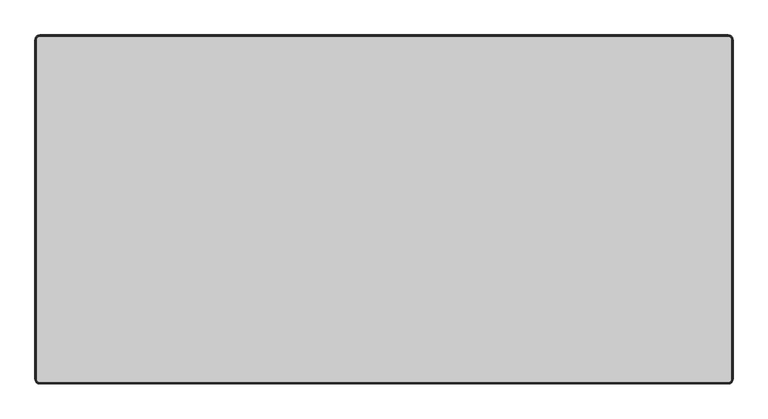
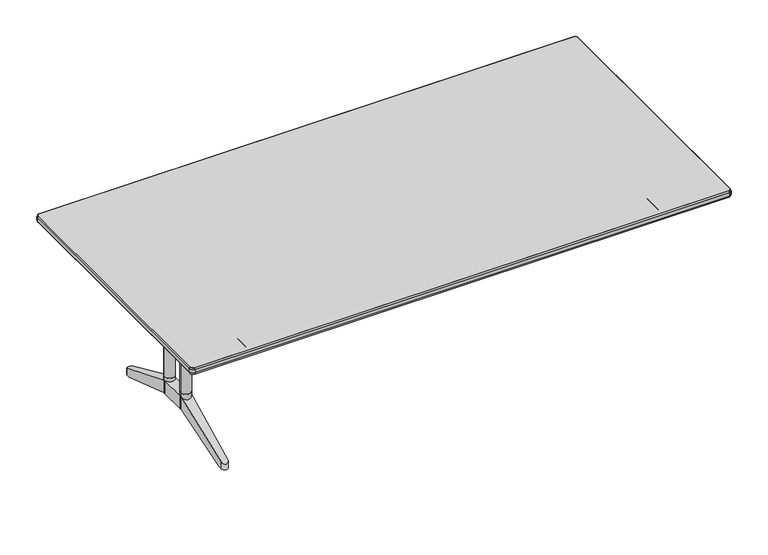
"""IFC4 building model written with IfcOpenShell, lengths in millimetres: furniture geometry."""

from ifc_helpers import new_model, si_unit, point, frame, frame_2d, origin, place, context, project, spatial, polyline, circle_curve, ellipse_curve, trimmed, segment, composite_curve, outline, extrude, source, transform, mapped, element, save
from ifc_brep_helpers import plane_surface, cylinder_surface, revolved_surface, advanced_brep


def furniture_7bb8779a(model_context):
    return source(origin(), model_context, "Body", "SolidModel", [
        extrude(outline(composite_curve([segment(trimmed(circle_curve(frame_2d((-812.8, -154.0488451)), 20.0), [point((-832.8, -154.0488451))], [point((-792.8, -154.0488451))], False, "CARTESIAN"), True, "CONTINUOUS"), segment(trimmed(circle_curve(frame_2d((-812.8, -154.0488451)), 20.0), [point((-792.8, -154.0488451))], [point((-832.8, -154.0488451))], False, "CARTESIAN"), True, "CONTINUOUS")], self_intersect=False)), frame((0.0, 0.0, 193.3080085), z_axis=(0.0, 0.0, 1.0), x_axis=(1.0, 0.0, 0.0)), (0.0, 0.0, 1.0), 68.8536941),
        extrude(outline(composite_curve([segment(trimmed(circle_curve(frame_2d((-812.8, -44.0488461)), 20.0), [point((-832.8, -44.0488461))], [point((-792.8, -44.0488461))], False, "CARTESIAN"), True, "CONTINUOUS"), segment(trimmed(circle_curve(frame_2d((-812.8, -44.0488461)), 20.0), [point((-792.8, -44.0488461))], [point((-832.8, -44.0488461))], False, "CARTESIAN"), True, "CONTINUOUS")], self_intersect=False)), frame((0.0, 0.0, 193.3080085), z_axis=(0.0, 0.0, 1.0), x_axis=(1.0, 0.0, 0.0)), (0.0, 0.0, 1.0), 68.8536941),
        extrude(outline(composite_curve([segment(trimmed(circle_curve(frame_2d((-812.8, -154.0488451)), 20.0), [point((-832.8, -154.0488451))], [point((-792.8, -154.0488451))], False, "CARTESIAN"), True, "CONTINUOUS"), segment(trimmed(circle_curve(frame_2d((-812.8, -154.0488451)), 20.0), [point((-792.8, -154.0488451))], [point((-832.8, -154.0488451))], False, "CARTESIAN"), True, "CONTINUOUS")], self_intersect=False)), frame((0.0, 0.0, 262.1617027), z_axis=(0.0, 0.0, 1.0), x_axis=(1.0, 0.0, 0.0)), (0.0, 0.0, 1.0), 318.0882973),
        extrude(outline(composite_curve([segment(trimmed(circle_curve(frame_2d((-812.8, -44.0488461)), 20.0), [point((-832.8, -44.0488461))], [point((-792.8, -44.0488461))], False, "CARTESIAN"), True, "CONTINUOUS"), segment(trimmed(circle_curve(frame_2d((-812.8, -44.0488461)), 20.0), [point((-792.8, -44.0488461))], [point((-832.8, -44.0488461))], False, "CARTESIAN"), True, "CONTINUOUS")], self_intersect=False)), frame((0.0, 0.0, 262.1617027), z_axis=(0.0, 0.0, 1.0), x_axis=(1.0, 0.0, 0.0)), (0.0, 0.0, 1.0), 318.0882973),
        extrude(outline(polyline([(-786.7999882, 147.9511612), (-786.7999882, -352.0488426), (-838.8000118, -352.0488426), (-838.8000118, 147.9511612), (-786.7999882, 147.9511612)])), frame((0.0, 0.0, 676.2500168), z_axis=(0.0, 0.0, 1.0), x_axis=(1.0, 0.0, 0.0)), (0.0, 0.0, 1.0), 27.9999624),
        advanced_brep(
        [(-827.7998762, -140.8200278, 676.2500168), (-797.7998905, -140.8201331, 676.2500168), (-797.7998905, -134.0488456, 676.2500168), (-827.7998762, -134.0488456, 676.2500168), (-797.7998905, -57.2775581, 676.2500168), (-827.7998762, -57.2776634, 676.2500168), (-827.7998762, -64.0488456, 676.2500168), (-797.7998905, -64.0488456, 676.2500168), (-827.7998762, -57.2776634, 580.25), (-797.7998905, -57.2775581, 580.25), (-797.7998905, -140.8201331, 580.25), (-827.7998762, -140.8200278, 580.25), (-827.7998762, -134.0488456, 598.2500176), (-827.7998762, -64.0488456, 598.2500176), (-797.7998905, -64.0488456, 598.2500176), (-797.7998905, -134.0488456, 598.2500176)],
        [
            (0, 1, circle_curve(frame((-812.7999298, -154.0488451, 676.2500168), z_axis=(0.0, 0.0, 1.0), x_axis=(1.0, 0.0, 0.0)), 20.0)),
            (1, 2),
            (2, 3),
            (3, 0),
            (4, 5, circle_curve(frame((-812.7999298, -44.0488461, 676.2500168), z_axis=(0.0, 0.0, 1.0), x_axis=(1.0, 0.0, 0.0)), 20.0)),
            (5, 6),
            (6, 7),
            (7, 4),
            (8, 9, circle_curve(frame((-812.7999298, -44.0488461, 580.25), z_axis=(0.0, 0.0, -1.0), x_axis=(1.0, 0.0, 0.0)), 20.0)),
            (9, 10),
            (10, 11, circle_curve(frame((-812.7999298, -154.0488451, 580.25), z_axis=(0.0, 0.0, -1.0), x_axis=(1.0, 0.0, 0.0)), 20.0)),
            (11, 8),
            (11, 0),
            (3, 12),
            (12, 13),
            (13, 6),
            (5, 8),
            (10, 1),
            (9, 4),
            (7, 14),
            (14, 15),
            (15, 2),
            (15, 12),
            (14, 13),
        ],
        [
            plane_surface(frame((-827.7998762, -140.8200278, 676.2500168), z_axis=(0.0, 0.0, 1.0), x_axis=(0.0, -1.0, 0.0))),
            plane_surface(frame((-827.7998762, -140.8200278, 580.25), z_axis=(0.0, 0.0, -1.0), x_axis=(0.0, 1.0, 0.0))),
            plane_surface(frame((-827.7998762, -57.2776634, 676.2500168), z_axis=(-1.0, 0.0, 0.0), x_axis=(0.0, 0.0, -1.0))),
            cylinder_surface(frame((-812.7999298, -154.0488451, 580.25), z_axis=(0.0, 0.0, 1.0), x_axis=(1.0, 0.0, 0.0)), 20.0),
            plane_surface(frame((-797.7998905, -140.8201331, 676.2500168), z_axis=(1.0, 0.0, 0.0), x_axis=(0.0, 0.0, -1.0))),
            cylinder_surface(frame((-812.7999298, -44.0488461, 580.25), z_axis=(0.0, 0.0, 1.0), x_axis=(1.0, 0.0, 0.0)), 20.0),
            plane_surface(frame((-797.7998905, -134.0488456, 676.2500168), z_axis=(0.0, 1.0, 0.0), x_axis=(-1.0, 0.0, 0.0))),
            plane_surface(frame((-797.7998905, -134.0488456, 598.2500176), z_axis=(0.0, 0.0, 1.0), x_axis=(-1.0, 0.0, 0.0))),
            plane_surface(frame((-797.7998905, -64.0488456, 598.2500176), z_axis=(0.0, -1.0, 0.0), x_axis=(-1.0, 0.0, 0.0))),
        ],
        [
            (0, [[1, 2, 3, 4]]),
            (0, [[5, 6, 7, 8]]),
            (1, [[9, 10, 11, 12]]),
            (2, [[-12, 13, -4, 14, 15, 16, -6, 17]]),
            (3, [[-1, -13, -11, 18]]),
            (4, [[-10, 19, -8, 20, 21, 22, -2, -18]]),
            (5, [[-5, -19, -9, -17]]),
            (6, [[23, -14, -3, -22]]),
            (7, [[-23, -21, 24, -15]]),
            (8, [[-24, -20, -7, -16]]),
        ],
    ),
        advanced_brep(
        [(-792.8000182, -154.0488451, 248.3080085), (-792.8000182, -44.0488461, 248.3080085), (-832.8000182, -44.0488461, 248.3080085), (-832.8000182, -154.0488451, 248.3080085), (-832.8000182, -44.0488461, 193.3080085), (-832.8000182, -154.0488451, 193.3080085), (-792.8000182, -154.0488451, 193.3080085), (-792.8000182, -44.0488461, 193.3080085), (-799.3271049, 208.4135103, 105.0), (-826.272897, 208.4135103, 105.0), (-825.9262294, 221.8222582, 105.0), (-799.6737706, 221.8222564, 105.0), (-825.9262294, 221.8222582, 133.4205559), (-799.6737706, 221.8222564, 133.4205567), (-793.0000412, -36.3121196, 193.3080085), (-832.5999941, -36.3121196, 193.3080085), (-799.6737706, -419.9199475, 133.4205567), (-825.9262294, -419.9199493, 133.4205559), (-799.6737706, -419.9199475, 105.0), (-799.3271049, -406.5112014, 105.0), (-793.0000412, -161.7855715, 193.3080085), (-825.9262294, -419.9199493, 105.0), (-832.5999941, -161.7855715, 193.3080085), (-826.272897, -406.5112014, 105.0)],
        [
            (0, 1),
            (1, 2),
            (2, 3),
            (3, 0),
            (2, 4),
            (4, 5),
            (5, 3),
            (0, 6),
            (6, 7),
            (7, 1),
            (8, 9),
            (9, 10),
            (10, 11, circle_curve(frame((-812.8, 221.4828948, 105.0), z_axis=(0.0, 0.0, -1.0), x_axis=(1.0, 0.0, 0.0)), 13.1306156)),
            (11, 8),
            (12, 2),
            (1, 13),
            (13, 12, ellipse_curve(frame((-812.8, 221.4828948, 133.5672007), z_axis=(0.0, 0.3966672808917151, 0.9179624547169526), x_axis=(0.0, 0.9179624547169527, -0.39666728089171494)), 14.3040878, 13.1306156)),
            (8, 14),
            (14, 15),
            (15, 9),
            (16, 0),
            (3, 17),
            (17, 16, ellipse_curve(frame((-812.8, -419.5805859, 133.5672007), z_axis=(0.0, -0.3966672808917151, 0.9179624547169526), x_axis=(0.0, -0.9179624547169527, -0.39666728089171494)), 14.3040878, 13.1306156)),
            (16, 18),
            (18, 19),
            (19, 20),
            (20, 6),
            (17, 21),
            (21, 18, circle_curve(frame((-812.8, -419.5805859, 105.0), z_axis=(0.0, 0.0, 1.0), x_axis=(1.0, 0.0, 0.0)), 13.1306156)),
            (5, 22),
            (22, 23),
            (23, 21),
            (12, 10),
            (15, 4),
            (13, 11),
            (7, 14),
            (23, 19),
            (22, 20),
        ],
        [
            plane_surface(frame((-792.8000182, -44.0488461, 248.3080085), z_axis=(0.0, 0.0, 1.0), x_axis=(0.0, 1.0, 0.0))),
            plane_surface(frame((-832.8000182, -44.0488461, 248.3080085), z_axis=(-1.0, 0.0, 0.0), x_axis=(0.0, 0.0, -1.0))),
            plane_surface(frame((-792.8000182, -154.0488451, 248.3080085), z_axis=(1.0, 0.0, 0.0), x_axis=(0.0, 0.0, -1.0))),
            plane_surface(frame((-791.4205415, 208.4135103, 105.0), z_axis=(0.0, 0.0, -1.0), x_axis=(-1.0, 0.0, 0.0))),
            plane_surface(frame((-791.4205415, 235.9511544, 127.3152182), z_axis=(0.0, 0.3966672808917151, 0.9179624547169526), x_axis=(-1.0, 0.0, 0.0))),
            plane_surface(frame((-791.4205415, -36.3121196, 193.3080085), z_axis=(0.0, -0.3394229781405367, -0.9406338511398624), x_axis=(-1.0, 0.0, 0.0))),
            plane_surface(frame((-791.4205415, -154.0488451, 248.3080085), z_axis=(0.0, -0.3966672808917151, 0.9179624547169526), x_axis=(-1.0, 0.0, 0.0))),
            plane_surface(frame((-792.8000182, -154.0488451, 249.0000084), z_axis=(0.9996659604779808, -0.025845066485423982, 0.0), x_axis=(0.0, 0.0, -1.0))),
            cylinder_surface(frame((-812.8, -419.5805859, 90.0000025), z_axis=(0.0, 0.0, -1.0), x_axis=(1.0, 0.0, 0.0)), 13.1306156),
            plane_surface(frame((-825.9262294, -419.9199493, 249.0000084), z_axis=(-0.9996659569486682, -0.025845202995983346, 0.0), x_axis=(0.0, 0.0, -1.0))),
            plane_surface(frame((-832.8000182, -44.0488461, 249.0000084), z_axis=(-0.9996659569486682, 0.025845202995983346, 0.0), x_axis=(0.0, 0.0, -1.0))),
            cylinder_surface(frame((-812.8, 221.4828948, 0.0), z_axis=(0.0, 0.0, -1.0), x_axis=(1.0, 0.0, 0.0)), 13.1306156),
            plane_surface(frame((-799.6737706, 221.8222564, 249.0000084), z_axis=(0.9996659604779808, 0.025845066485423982, 0.0), x_axis=(0.0, 0.0, -1.0))),
            plane_surface(frame((-791.4205415, -434.0488456, 105.0), z_axis=(0.0, 0.0, -1.0), x_axis=(-1.0, 0.0, 0.0))),
            plane_surface(frame((-791.4205415, -406.5112014, 105.0), z_axis=(0.0, 0.3394229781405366, -0.9406338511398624), x_axis=(-1.0, 0.0, 0.0))),
            plane_surface(frame((-791.4205415, -44.0488461, 193.3080085), z_axis=(0.0, 0.0, -1.0), x_axis=(-1.0, 0.0, 0.0))),
        ],
        [
            (0, [[1, 2, 3, 4]]),
            (1, [[-3, 5, 6, 7]]),
            (2, [[-1, 8, 9, 10]]),
            (3, [[11, 12, 13, 14]]),
            (4, [[15, -2, 16, 17]]),
            (5, [[-11, 18, 19, 20]]),
            (6, [[21, -4, 22, 23]]),
            (7, [[24, 25, 26, 27, -8, -21]]),
            (8, [[-24, -23, 28, 29]]),
            (9, [[-28, -22, -7, 30, 31, 32]]),
            (10, [[33, -12, -20, 34, -5, -15]]),
            (11, [[-33, -17, 35, -13]]),
            (12, [[-35, -16, -10, 36, -18, -14]]),
            (13, [[37, -25, -29, -32]]),
            (14, [[-37, -31, 38, -26]]),
            (15, [[-19, -36, -9, -27, -38, -30, -6, -34]]),
        ],
    ),
        extrude(outline(composite_curve([segment(trimmed(circle_curve(frame_2d((-1051.8, 419.3511544)), 10.0), [point((-1061.8, 419.3511544))], [point((-1051.8, 429.3511544))], False, "CARTESIAN"), True, "CONTINUOUS"), segment(polyline([(-1051.8, 429.3511544), (1051.8, 429.3511544)]), True, "CONTINUOUS"), segment(trimmed(circle_curve(frame_2d((1051.8, 419.3511544)), 10.0), [point((1051.8, 429.3511544))], [point((1061.8, 419.3511544))], False, "CARTESIAN"), True, "CONTINUOUS"), segment(polyline([(1061.8, 419.3511544), (1061.8, -617.4488456)]), True, "CONTINUOUS"), segment(trimmed(circle_curve(frame_2d((1051.8, -617.4488456)), 10.0), [point((1061.8, -617.4488456))], [point((1051.8, -627.4488456))], False, "CARTESIAN"), True, "CONTINUOUS"), segment(polyline([(1051.8, -627.4488456), (-1051.8, -627.4488456)]), True, "CONTINUOUS"), segment(trimmed(circle_curve(frame_2d((-1051.8, -617.4488456)), 10.0), [point((-1051.8, -627.4488456))], [point((-1061.8, -617.4488456))], False, "CARTESIAN"), True, "CONTINUOUS"), segment(polyline([(-1061.8, -617.4488456), (-1061.8, 419.3511544)]), True, "CONTINUOUS")], self_intersect=False)), frame((0.0, 0.0, 704.2499792), z_axis=(0.0, 0.0, 1.0), x_axis=(1.0, 0.0, 0.0)), (0.0, 0.0, 1.0), 26.0000208),
        extrude(outline(composite_curve([segment(trimmed(circle_curve(frame_2d((690.249998, -812.8)), 3.5), [point((686.749998, -812.8))], [point((693.749998, -812.8))], False, "CARTESIAN"), True, "CONTINUOUS"), segment(trimmed(circle_curve(frame_2d((690.249998, -812.8)), 3.5), [point((693.749998, -812.8))], [point((686.749998, -812.8))], False, "CARTESIAN"), True, "CONTINUOUS")], self_intersect=False)), frame((0.0, -558.8394749, 0.0), z_axis=(0.0, 1.0, 0.0), x_axis=(0.0, 0.0, 1.0)), (0.0, 0.0, 1.0), 206.7906323),
        extrude(outline(composite_curve([segment(trimmed(circle_curve(frame_2d((690.249998, 812.8)), 3.5), [point((686.749998, 812.8))], [point((693.749998, 812.8))], False, "CARTESIAN"), True, "CONTINUOUS"), segment(trimmed(circle_curve(frame_2d((690.249998, 812.8)), 3.5), [point((693.749998, 812.8))], [point((686.749998, 812.8))], False, "CARTESIAN"), True, "CONTINUOUS")], self_intersect=False)), frame((0.0, -558.8394749, 0.0), z_axis=(0.0, 1.0, 0.0), x_axis=(0.0, 0.0, 1.0)), (0.0, 0.0, 1.0), 206.7906323),
        advanced_brep(
        [(-1051.8, -627.4488456, 704.2499792), (-1061.8, -617.4488456, 704.2499792), (-1061.8, -617.4488456, 730.25), (-1051.8, -627.4488456, 730.25), (-1051.8, -630.8983863, 710.6562743), (-1065.2495407, -617.4488456, 710.6562743), (-1063.0436764, -617.4488456, 704.2499792), (-1051.8, -628.692522, 704.2499792), (-1051.8, -630.8983863, 723.843705), (-1065.2495407, -617.4488456, 723.843705), (-1051.8, -628.692522, 730.25), (-1063.0436764, -617.4488456, 730.25), (1051.8, -627.4488456, 730.25), (1051.8, -627.4488456, 704.2499792), (1051.8, -628.692522, 704.2499792), (1051.8, -630.8983863, 710.6562743), (1051.8, -630.8983863, 723.843705), (1051.8, -628.692522, 730.25), (1061.8, -617.4488456, 704.2499792), (1061.8, -617.4488456, 730.25), (1065.2495407, -617.4488456, 710.6562743), (1063.0436764, -617.4488456, 704.2499792), (1065.2495407, -617.4488456, 723.843705), (1063.0436764, -617.4488456, 730.25), (1061.8, 419.3511544, 730.25), (1061.8, 419.3511544, 704.2499792), (1063.0436764, 419.3511544, 704.2499792), (1065.2495407, 419.3511544, 710.6562743), (1065.2495407, 419.3511544, 723.843705), (1063.0436764, 419.3511544, 730.25), (1051.8, 429.3511544, 704.2499792), (1051.8, 429.3511544, 730.25), (1051.8, 432.8006952, 710.6562743), (1051.8, 430.5948309, 704.2499792), (1051.8, 432.8006952, 723.843705), (1051.8, 430.5948309, 730.25), (-1051.8, 429.3511544, 730.25), (-1051.8, 429.3511544, 704.2499792), (-1051.8, 430.5948309, 704.2499792), (-1051.8, 432.8006952, 710.6562743), (-1051.8, 432.8006952, 723.843705), (-1051.8, 430.5948309, 730.25), (-1061.8, 419.3511544, 704.2499792), (-1061.8, 419.3511544, 730.25), (-1065.2495407, 419.3511544, 710.6562743), (-1063.0436764, 419.3511544, 704.2499792), (-1065.2495407, 419.3511544, 723.843705), (-1063.0436764, 419.3511544, 730.25)],
        [
            (0, 1, circle_curve(frame((-1051.8, -617.4488456, 704.2499792), z_axis=(0.0, 0.0, -1.0), x_axis=(-1.0, 0.0, 0.0)), 10.0)),
            (1, 2),
            (2, 3, circle_curve(frame((-1051.8, -617.4488456, 730.25), z_axis=(0.0, 0.0, 1.0), x_axis=(-1.0, 0.0, 0.0)), 10.0)),
            (3, 0),
            (4, 5, circle_curve(frame((-1051.8, -617.4488456, 710.6562743), z_axis=(0.0, 0.0, -1.0), x_axis=(-1.0, 0.0, 0.0)), 13.4495407)),
            (5, 6),
            (6, 7, circle_curve(frame((-1051.8, -617.4488456, 704.2499792), z_axis=(0.0, 0.0, 1.0), x_axis=(-1.0, 0.0, 0.0)), 11.2436764)),
            (7, 4),
            (8, 9, circle_curve(frame((-1051.8, -617.4488456, 723.843705), z_axis=(0.0, 0.0, -1.0), x_axis=(-1.0, 0.0, 0.0)), 13.4495407)),
            (9, 5, circle_curve(frame((-1052.0040596, -617.4488456, 717.2499896), z_axis=(0.0, -1.0, 0.0), x_axis=(1.0, 0.0, 0.0)), 14.7959404)),
            (4, 8, circle_curve(frame((-1051.8, -617.6529051, 717.2499896), z_axis=(-1.0, 0.0, 0.0), x_axis=(0.0, 1.0, 0.0)), 14.7959404)),
            (10, 11, circle_curve(frame((-1051.8, -617.4488456, 730.25), z_axis=(0.0, 0.0, -1.0), x_axis=(-1.0, 0.0, 0.0)), 11.2436764)),
            (11, 9),
            (8, 10),
            (3, 12),
            (12, 13),
            (13, 0),
            (7, 14),
            (14, 15),
            (15, 4),
            (15, 16, circle_curve(frame((1051.8, -617.6529051, 717.2499896), z_axis=(-1.0, 0.0, 0.0), x_axis=(0.0, 1.0, 0.0)), 14.7959404)),
            (16, 8),
            (16, 17),
            (17, 10),
            (18, 13, circle_curve(frame((1051.8, -617.4488456, 704.2499792), z_axis=(0.0, 0.0, -1.0), x_axis=(0.0, -1.0, 0.0)), 10.0)),
            (12, 19, circle_curve(frame((1051.8, -617.4488456, 730.25), z_axis=(0.0, 0.0, 1.0), x_axis=(0.0, -1.0, 0.0)), 10.0)),
            (19, 18),
            (20, 15, circle_curve(frame((1051.8, -617.4488456, 710.6562743), z_axis=(0.0, 0.0, -1.0), x_axis=(0.0, -1.0, 0.0)), 13.4495407)),
            (14, 21, circle_curve(frame((1051.8, -617.4488456, 704.2499792), z_axis=(0.0, 0.0, 1.0), x_axis=(0.0, -1.0, 0.0)), 11.2436764)),
            (21, 20),
            (22, 16, circle_curve(frame((1051.8, -617.4488456, 723.843705), z_axis=(0.0, 0.0, -1.0), x_axis=(0.0, -1.0, 0.0)), 13.4495407)),
            (20, 22, circle_curve(frame((1052.0040596, -617.4488456, 717.2499896), z_axis=(0.0, -1.0, 0.0), x_axis=(-1.0, 0.0, 0.0)), 14.7959404)),
            (23, 17, circle_curve(frame((1051.8, -617.4488456, 730.25), z_axis=(0.0, 0.0, -1.0), x_axis=(0.0, -1.0, 0.0)), 11.2436764)),
            (22, 23),
            (19, 24),
            (24, 25),
            (25, 18),
            (21, 26),
            (26, 27),
            (27, 20),
            (27, 28, circle_curve(frame((1052.0040596, 419.3511544, 717.2499896), z_axis=(0.0, -1.0, 0.0), x_axis=(-1.0, 0.0, 0.0)), 14.7959404)),
            (28, 22),
            (28, 29),
            (29, 23),
            (30, 25, circle_curve(frame((1051.8, 419.3511544, 704.2499792), z_axis=(0.0, 0.0, -1.0), x_axis=(1.0, 0.0, 0.0)), 10.0)),
            (24, 31, circle_curve(frame((1051.8, 419.3511544, 730.25), z_axis=(0.0, 0.0, 1.0), x_axis=(1.0, 0.0, 0.0)), 10.0)),
            (31, 30),
            (32, 27, circle_curve(frame((1051.8, 419.3511544, 710.6562743), z_axis=(0.0, 0.0, -1.0), x_axis=(1.0, 0.0, 0.0)), 13.4495407)),
            (26, 33, circle_curve(frame((1051.8, 419.3511544, 704.2499792), z_axis=(0.0, 0.0, 1.0), x_axis=(1.0, 0.0, 0.0)), 11.2436764)),
            (33, 32),
            (34, 28, circle_curve(frame((1051.8, 419.3511544, 723.843705), z_axis=(0.0, 0.0, -1.0), x_axis=(1.0, 0.0, 0.0)), 13.4495407)),
            (32, 34, circle_curve(frame((1051.8, 419.555214, 717.2499896), z_axis=(1.0, 0.0, 0.0), x_axis=(0.0, -1.0, 0.0)), 14.7959404)),
            (35, 29, circle_curve(frame((1051.8, 419.3511544, 730.25), z_axis=(0.0, 0.0, -1.0), x_axis=(1.0, 0.0, 0.0)), 11.2436764)),
            (34, 35),
            (31, 36),
            (36, 37),
            (37, 30),
            (33, 38),
            (38, 39),
            (39, 32),
            (39, 40, circle_curve(frame((-1051.8, 419.555214, 717.2499896), z_axis=(1.0, 0.0, 0.0), x_axis=(0.0, -1.0, 0.0)), 14.7959404)),
            (40, 34),
            (40, 41),
            (41, 35),
            (42, 37, circle_curve(frame((-1051.8, 419.3511544, 704.2499792), z_axis=(0.0, 0.0, -1.0), x_axis=(0.0, 1.0, 0.0)), 10.0)),
            (36, 43, circle_curve(frame((-1051.8, 419.3511544, 730.25), z_axis=(0.0, 0.0, 1.0), x_axis=(0.0, 1.0, 0.0)), 10.0)),
            (43, 42),
            (44, 39, circle_curve(frame((-1051.8, 419.3511544, 710.6562743), z_axis=(0.0, 0.0, -1.0), x_axis=(0.0, 1.0, 0.0)), 13.4495407)),
            (38, 45, circle_curve(frame((-1051.8, 419.3511544, 704.2499792), z_axis=(0.0, 0.0, 1.0), x_axis=(0.0, 1.0, 0.0)), 11.2436764)),
            (45, 44),
            (46, 40, circle_curve(frame((-1051.8, 419.3511544, 723.843705), z_axis=(0.0, 0.0, -1.0), x_axis=(0.0, 1.0, 0.0)), 13.4495407)),
            (44, 46, circle_curve(frame((-1052.0040596, 419.3511544, 717.2499896), z_axis=(0.0, 1.0, 0.0), x_axis=(1.0, 0.0, 0.0)), 14.7959404)),
            (47, 41, circle_curve(frame((-1051.8, 419.3511544, 730.25), z_axis=(0.0, 0.0, -1.0), x_axis=(0.0, 1.0, 0.0)), 11.2436764)),
            (46, 47),
            (43, 2),
            (1, 42),
            (45, 6),
            (5, 44),
            (9, 46),
            (11, 47),
        ],
        [
            revolved_surface(polyline([(-1061.8, -617.4488456, 730.25), (-1061.8, -617.4488456, 704.2499792)]), (-1051.8, -617.4488456, 730.25), (0.0, 0.0, 1.0)),
            revolved_surface(polyline([(-1063.0436764, -617.4488456, 704.2499792), (-1065.2495407, -617.4488456, 710.6562743)]), (-1051.8, -617.4488456, 730.25), (0.0, 0.0, 1.0)),
            revolved_surface(trimmed(ellipse_curve(frame((-1052.0040596, -617.4488456, 717.2499896), z_axis=(0.0, 1.0, 0.0), x_axis=(1.0, 0.0, 0.0)), 14.7959404, 14.7959404), [point((-1065.2495407, -617.4488456, 710.6562743))], [point((-1065.2495407, -617.4488456, 723.843705))], True, "CARTESIAN"), (-1051.8, -617.4488456, 730.25), (0.0, 0.0, 1.0)),
            revolved_surface(polyline([(-1065.2495407, -617.4488456, 723.843705), (-1063.0436764, -617.4488456, 730.25)]), (-1051.8, -617.4488456, 730.25), (0.0, 0.0, 1.0)),
            plane_surface(frame((-1051.8, -627.4488456, 730.25), z_axis=(0.0, 1.0, 0.0), x_axis=(1.0, 0.0, 0.0))),
            plane_surface(frame((-1051.8, -628.692522, 704.2499792), z_axis=(0.0, -0.9455185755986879, -0.32556815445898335), x_axis=(1.0, 0.0, 0.0))),
            cylinder_surface(frame((-1051.8, -617.6529051, 717.2499896), z_axis=(-1.0, 0.0, 0.0), x_axis=(0.0, 1.0, 0.0)), 14.7959404),
            plane_surface(frame((-1051.8, -630.8983863, 723.843705), z_axis=(0.0, -0.945518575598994, 0.32556815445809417), x_axis=(1.0, 0.0, 0.0))),
            revolved_surface(polyline([(1051.8, -627.4488456, 730.25), (1051.8, -627.4488456, 704.2499792)]), (1051.8, -617.4488456, 730.25), (0.0, 0.0, 1.0)),
            revolved_surface(polyline([(1051.8, -628.692522, 704.2499792), (1051.8, -630.8983863, 710.6562743)]), (1051.8, -617.4488456, 730.25), (0.0, 0.0, 1.0)),
            revolved_surface(trimmed(ellipse_curve(frame((1051.8, -617.6529051, 717.2499896), z_axis=(-1.0, 0.0, 0.0), x_axis=(0.0, 1.0, 0.0)), 14.7959404, 14.7959404), [point((1051.8, -630.8983863, 710.6562743))], [point((1051.8, -630.8983863, 723.843705))], True, "CARTESIAN"), (1051.8, -617.4488456, 730.25), (0.0, 0.0, 1.0)),
            revolved_surface(polyline([(1051.8, -630.8983863, 723.843705), (1051.8, -628.692522, 730.25)]), (1051.8, -617.4488456, 730.25), (0.0, 0.0, 1.0)),
            plane_surface(frame((1061.8, -617.4488456, 730.25), z_axis=(-1.0, 0.0, 0.0), x_axis=(0.0, 1.0, 0.0))),
            plane_surface(frame((1063.0436764, -617.4488456, 704.2499792), z_axis=(0.9455185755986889, 0.0, -0.32556815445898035), x_axis=(0.0, 1.0, 0.0))),
            cylinder_surface(frame((1052.0040596, -617.4488456, 717.2499896), z_axis=(0.0, -1.0, 0.0), x_axis=(-1.0, 0.0, 0.0)), 14.7959404),
            plane_surface(frame((1065.2495407, -617.4488456, 723.843705), z_axis=(0.945518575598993, 0.0, 0.32556815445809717), x_axis=(0.0, 1.0, 0.0))),
            revolved_surface(polyline([(1061.8, 419.3511544, 730.25), (1061.8, 419.3511544, 704.2499792)]), (1051.8, 419.3511544, 730.25), (0.0, 0.0, 1.0)),
            revolved_surface(polyline([(1063.0436764, 419.3511544, 704.2499792), (1065.2495407, 419.3511544, 710.6562743)]), (1051.8, 419.3511544, 730.25), (0.0, 0.0, 1.0)),
            revolved_surface(trimmed(ellipse_curve(frame((1052.0040596, 419.3511544, 717.2499896), z_axis=(0.0, -1.0, 0.0), x_axis=(-1.0, 0.0, 0.0)), 14.7959404, 14.7959404), [point((1065.2495407, 419.3511544, 710.6562743))], [point((1065.2495407, 419.3511544, 723.843705))], True, "CARTESIAN"), (1051.8, 419.3511544, 730.25), (0.0, 0.0, 1.0)),
            revolved_surface(polyline([(1065.2495407, 419.3511544, 723.843705), (1063.0436764, 419.3511544, 730.25)]), (1051.8, 419.3511544, 730.25), (0.0, 0.0, 1.0)),
            plane_surface(frame((1051.8, 429.3511544, 730.25), z_axis=(0.0, -1.0, 0.0), x_axis=(-1.0, 0.0, 0.0))),
            plane_surface(frame((1051.8, 430.5948309, 704.2499792), z_axis=(0.0, 0.9455185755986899, -0.32556815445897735), x_axis=(-1.0, 0.0, 0.0))),
            cylinder_surface(frame((1051.8, 419.555214, 717.2499896), z_axis=(1.0, 0.0, 0.0), x_axis=(0.0, -1.0, 0.0)), 14.7959404),
            plane_surface(frame((1051.8, 432.8006952, 723.843705), z_axis=(0.0, 0.945518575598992, 0.32556815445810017), x_axis=(-1.0, 0.0, 0.0))),
            revolved_surface(polyline([(-1051.8, 429.3511544, 730.25), (-1051.8, 429.3511544, 704.2499792)]), (-1051.8, 419.3511544, 730.25), (0.0, 0.0, 1.0)),
            revolved_surface(polyline([(-1051.8, 430.5948309, 704.2499792), (-1051.8, 432.8006952, 710.6562743)]), (-1051.8, 419.3511544, 730.25), (0.0, 0.0, 1.0)),
            revolved_surface(trimmed(ellipse_curve(frame((-1051.8, 419.555214, 717.2499896), z_axis=(1.0, 0.0, 0.0), x_axis=(0.0, -1.0, 0.0)), 14.7959404, 14.7959404), [point((-1051.8, 432.8006952, 710.6562743))], [point((-1051.8, 432.8006952, 723.843705))], True, "CARTESIAN"), (-1051.8, 419.3511544, 730.25), (0.0, 0.0, 1.0)),
            revolved_surface(polyline([(-1051.8, 432.8006952, 723.843705), (-1051.8, 430.5948309, 730.25)]), (-1051.8, 419.3511544, 730.25), (0.0, 0.0, 1.0)),
            plane_surface(frame((-1061.8, 419.3511544, 730.25), z_axis=(1.0, 0.0, 0.0), x_axis=(0.0, -1.0, 0.0))),
            plane_surface(frame((-1063.0436764, 419.3511544, 704.2499792), z_axis=(-0.9455185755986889, 0.0, -0.32556815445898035), x_axis=(0.0, -1.0, 0.0))),
            cylinder_surface(frame((-1052.0040596, 419.3511544, 717.2499896), z_axis=(0.0, 1.0, 0.0), x_axis=(1.0, 0.0, 0.0)), 14.7959404),
            plane_surface(frame((-1065.2495407, 419.3511544, 723.843705), z_axis=(-0.945518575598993, 0.0, 0.32556815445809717), x_axis=(0.0, -1.0, 0.0))),
            plane_surface(frame((-1061.8, 419.3511544, 704.2499792), z_axis=(0.0, 0.0, -1.0), x_axis=(0.0, -1.0, 0.0))),
            plane_surface(frame((-1063.0436764, 419.3511544, 730.25), z_axis=(0.0, 0.0, 1.0), x_axis=(0.0, -1.0, 0.0))),
        ],
        [
            (0, [[1, 2, 3, 4]]),
            (1, [[5, 6, 7, 8]]),
            (2, [[9, 10, -5, 11]]),
            (3, [[12, 13, -9, 14]]),
            (4, [[-4, 15, 16, 17]]),
            (5, [[-8, 18, 19, 20]]),
            (6, [[-11, -20, 21, 22]]),
            (7, [[-14, -22, 23, 24]]),
            (8, [[25, -16, 26, 27]]),
            (9, [[28, -19, 29, 30]]),
            (10, [[31, -21, -28, 32]]),
            (11, [[33, -23, -31, 34]]),
            (12, [[-27, 35, 36, 37]]),
            (13, [[-30, 38, 39, 40]]),
            (14, [[-32, -40, 41, 42]]),
            (15, [[-34, -42, 43, 44]]),
            (16, [[45, -36, 46, 47]]),
            (17, [[48, -39, 49, 50]]),
            (18, [[51, -41, -48, 52]]),
            (19, [[53, -43, -51, 54]]),
            (20, [[-47, 55, 56, 57]]),
            (21, [[-50, 58, 59, 60]]),
            (22, [[-52, -60, 61, 62]]),
            (23, [[-54, -62, 63, 64]]),
            (24, [[65, -56, 66, 67]]),
            (25, [[68, -59, 69, 70]]),
            (26, [[71, -61, -68, 72]]),
            (27, [[73, -63, -71, 74]]),
            (28, [[-67, 75, -2, 76]]),
            (29, [[-70, 77, -6, 78]]),
            (30, [[-72, -78, -10, 79]]),
            (31, [[-74, -79, -13, 80]]),
            (32, [[-77, -69, -58, -49, -38, -29, -18, -7], [-57, -65, -76, -1, -17, -25, -37, -45]]),
            (33, [[-64, -73, -80, -12, -24, -33, -44, -53], [-75, -66, -55, -46, -35, -26, -15, -3]]),
        ],
    ),
        advanced_brep(
        [(-838.7999286, -558.8394749, 701.9835614), (-838.7999286, -558.8394749, 686.9835614), (-757.9927788, -558.8394749, 678.983541), (-756.800359, -558.8394749, 693.983541), (756.800359, -558.8394749, 693.983541), (757.9927788, -558.8394749, 678.983541), (838.6748715, -558.8394749, 701.9835614), (838.6748715, -558.8394749, 686.9835614), (806.8003594, -558.8394749, 701.9835614), (807.9927792, -558.8394749, 686.9835614), (-806.8003594, -558.8394749, 701.9835614), (-807.9927792, -558.8394749, 686.9835614)],
        [
            (0, 1, circle_curve(frame((-838.7999286, -558.8394749, 694.4835614), z_axis=(-1.0, 0.0, 0.0), x_axis=(0.0, 0.0, -1.0)), 7.5)),
            (1, 0, circle_curve(frame((-838.7999286, -558.8394749, 694.4835614), z_axis=(-1.0, 0.0, 0.0), x_axis=(0.0, 0.0, -1.0)), 7.5)),
            (2, 3, ellipse_curve(frame((-757.3965689, -558.8394749, 686.483541), z_axis=(0.9968551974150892, 0.0, -0.07924465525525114), x_axis=(-0.07924465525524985, 0.0, -0.9968551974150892)), 7.5236604, 7.5)),
            (3, 4),
            (4, 5, ellipse_curve(frame((757.3965689, -558.8394749, 686.483541), z_axis=(-0.9968551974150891, 0.0, -0.07924465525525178), x_axis=(-0.07924465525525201, 0.0, 0.9968551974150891)), 7.5236604, 7.5)),
            (5, 2),
            (3, 2, ellipse_curve(frame((-757.3965689, -558.8394749, 686.483541), z_axis=(0.9968551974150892, 0.0, -0.07924465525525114), x_axis=(-0.07924465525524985, 0.0, -0.9968551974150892)), 7.5236604, 7.5)),
            (5, 4, ellipse_curve(frame((757.3965689, -558.8394749, 686.483541), z_axis=(-0.9968551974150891, 0.0, -0.07924465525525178), x_axis=(-0.07924465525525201, 0.0, 0.9968551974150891)), 7.5236604, 7.5)),
            (6, 7, circle_curve(frame((838.6748715, -558.8394749, 694.4835614), z_axis=(1.0, 0.0, 0.0), x_axis=(0.0, 0.0, -1.0)), 7.5)),
            (7, 6, circle_curve(frame((838.6748715, -558.8394749, 694.4835614), z_axis=(1.0, 0.0, 0.0), x_axis=(0.0, 0.0, -1.0)), 7.5)),
            (4, 8),
            (8, 9, ellipse_curve(frame((807.3965693, -558.8394749, 694.4835614), z_axis=(-0.9968551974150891, 0.0, -0.07924465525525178), x_axis=(0.07924465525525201, 0.0, -0.9968551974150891)), 7.5236604, 7.5)),
            (9, 5),
            (9, 8, ellipse_curve(frame((807.3965693, -558.8394749, 694.4835614), z_axis=(-0.9968551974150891, 0.0, -0.07924465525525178), x_axis=(0.07924465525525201, 0.0, -0.9968551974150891)), 7.5236604, 7.5)),
            (8, 6),
            (7, 9),
            (0, 10),
            (10, 11, ellipse_curve(frame((-807.3965693, -558.8394749, 694.4835614), z_axis=(-0.9968551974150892, 0.0, 0.07924465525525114), x_axis=(-0.07924465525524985, 0.0, -0.9968551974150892)), 7.5236604, 7.5)),
            (11, 1),
            (11, 10, ellipse_curve(frame((-807.3965693, -558.8394749, 694.4835614), z_axis=(-0.9968551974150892, 0.0, 0.07924465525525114), x_axis=(-0.07924465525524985, 0.0, -0.9968551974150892)), 7.5236604, 7.5)),
            (10, 3),
            (2, 11),
        ],
        [
            plane_surface(frame((-838.7999286, -632.4488456, 664.2500082), z_axis=(-1.0, 0.0, 0.0), x_axis=(0.0, 1.0, 0.0))),
            cylinder_surface(frame((-759.7999746, -558.8394749, 686.483541), z_axis=(-1.0, 0.0, 0.0), x_axis=(0.0, 0.0, -1.0)), 7.5),
            plane_surface(frame((838.6748715, -632.4488456, 664.2500082), z_axis=(1.0, 0.0, 0.0), x_axis=(0.0, 1.0, 0.0))),
            cylinder_surface(frame((755.0233486, -558.8394749, 686.1038248), z_axis=(-0.9874405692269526, 0.0, -0.15799089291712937), x_axis=(0.15799089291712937, 0.0, -0.9874405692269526)), 7.5),
            cylinder_surface(frame((809.799975, -558.8394749, 694.4835614), z_axis=(-1.0, 0.0, 0.0), x_axis=(0.0, 0.0, -1.0)), 7.5),
            cylinder_surface(frame((-838.7999286, -558.8394749, 694.4835614), z_axis=(-1.0, 0.0, 0.0), x_axis=(0.0, 0.0, -1.0)), 7.5),
            cylinder_surface(frame((-805.0233489, -558.8394749, 694.1038452), z_axis=(-0.9874405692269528, 0.0, 0.15799089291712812), x_axis=(-0.15799089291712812, 0.0, -0.9874405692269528)), 7.5),
        ],
        [
            (0, [[1, 2]]),
            (1, [[3, 4, 5, 6]]),
            (1, [[7, -6, 8, -4]]),
            (2, [[9, 10]]),
            (3, [[-5, 11, 12, 13]]),
            (3, [[-8, -13, 14, -11]]),
            (4, [[-12, 15, -10, 16]]),
            (4, [[-14, -16, -9, -15]]),
            (5, [[-1, 17, 18, 19]]),
            (5, [[-2, -19, 20, -17]]),
            (6, [[-18, 21, -3, 22]]),
            (6, [[-20, -22, -7, -21]]),
        ],
    ),
        extrude(outline(polyline([(-66.0488461, 600.2500046), (-66.0488461, 658.2500254), (-64.0488456, 658.2500254), (-64.0488456, 598.2500176), (-134.0488456, 598.2500176), (-134.0488456, 658.2500254), (-132.048845, 658.2500254), (-132.048845, 600.2500046), (-66.0488461, 600.2500046)])), frame((-827.8, 0.0, 0.0), z_axis=(1.0, 0.0, 0.0), x_axis=(0.0, 1.0, 0.0)), (0.0, 0.0, 1.0), 1655.6),
    ])


if __name__ == "__main__":
    model = new_model("IFC4")
    model_context = context("Model", 3, world=origin())
    ifc_project = project(units=[si_unit("LENGTHUNIT", "METRE", prefix="MILLI")], contexts=[model_context])
    site = spatial("IfcSite", under=ifc_project)
    building = spatial("IfcBuilding", under=site)
    placement = place(None, origin())
    furniture_shape = furniture_7bb8779a(model_context)
    element("IfcFurniture", 1, ObjectType="Furniture_Wilkhahn_Timetable_614-00_Shift : 42\"W x 84\"L", at=placement, inside=building, context=model_context, shape_type="MappedRepresentation", body=[
        mapped(furniture_shape, transform((0.0, 0.0, 0.0), x_axis=(1.0, 0.0, 0.0), y_axis=(0.0, 1.0, 0.0), z_axis=(0.0, 0.0, 1.0))),
    ])
    save(model, "model.ifc")
